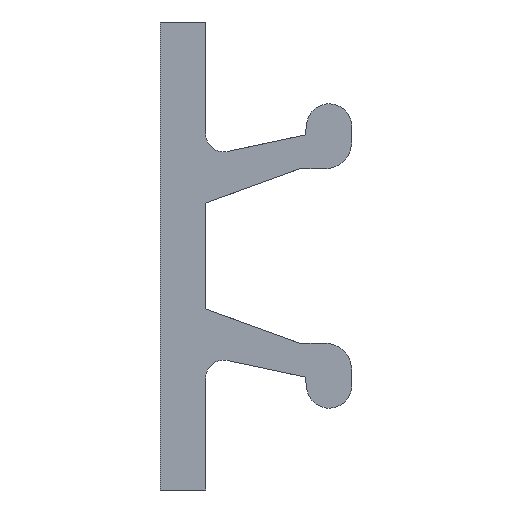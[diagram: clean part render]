
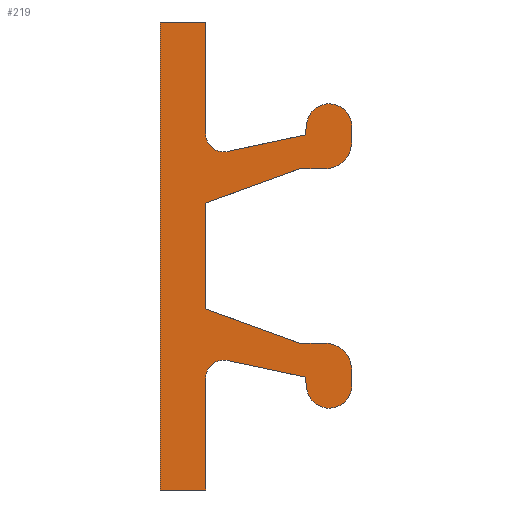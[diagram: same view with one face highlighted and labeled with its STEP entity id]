
A CAD part, front view. The second image highlights one B-rep face of the part: STEP entity #219.
In plain terms, the highlighted planar face has unit normal (0, -1, 0).
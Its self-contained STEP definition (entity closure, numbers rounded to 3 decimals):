
#30=CARTESIAN_POINT('',(5.175,0.,0.));
#31=DIRECTION('',(1.,0.,0.));
#32=DIRECTION('',(0.,-1.,0.));
#33=AXIS2_PLACEMENT_3D('',#30,#32,#31);
#34=PLANE('',#33);
#35=CARTESIAN_POINT('',(3.208,0.,-2.678));
#36=VERTEX_POINT('',#35);
#37=CARTESIAN_POINT('',(3.236,0.,-2.922));
#38=VERTEX_POINT('',#37);
#39=CARTESIAN_POINT('',(3.208,0.,-2.678));
#40=DIRECTION('',(0.114,0.,-0.994));
#41=VECTOR('',#40,0.246);
#42=LINE('',#39,#41);
#43=EDGE_CURVE('',#36,#38,#42,.T.);
#44=ORIENTED_EDGE('E1',*,*,#43,.T.);
#45=CARTESIAN_POINT('',(4.233,0.,-2.865));
#46=VERTEX_POINT('',#45);
#47=CARTESIAN_POINT('',(3.733,0.,-2.865));
#48=DIRECTION('',(-0.994,0.,-0.114));
#49=DIRECTION('',(0.,-1.,0.));
#50=AXIS2_PLACEMENT_3D('',#47,#49,#48);
#51=CIRCLE('',#50,0.5);
#52=EDGE_CURVE('',#38,#46,#51,.T.);
#53=ORIENTED_EDGE('E2',*,*,#52,.T.);
#54=CARTESIAN_POINT('',(4.233,0.,-2.528));
#55=VERTEX_POINT('',#54);
#56=CARTESIAN_POINT('',(4.233,0.,-2.865));
#57=DIRECTION('',(0.,0.,1.));
#58=VECTOR('',#57,0.337);
#59=LINE('',#56,#58);
#60=EDGE_CURVE('',#46,#55,#59,.T.);
#61=ORIENTED_EDGE('E3',*,*,#60,.T.);
#62=CARTESIAN_POINT('',(3.633,0.,-1.928));
#63=VERTEX_POINT('',#62);
#64=CARTESIAN_POINT('',(3.633,0.,-2.528));
#65=DIRECTION('',(1.,0.,0.));
#66=DIRECTION('',(-0.,-1.,0.));
#67=AXIS2_PLACEMENT_3D('',#64,#66,#65);
#68=CIRCLE('',#67,0.6);
#69=EDGE_CURVE('',#55,#63,#68,.T.);
#70=ORIENTED_EDGE('E4',*,*,#69,.T.);
#71=CARTESIAN_POINT('',(3.08,0.,-1.928));
#72=VERTEX_POINT('',#71);
#73=CARTESIAN_POINT('',(3.633,0.,-1.928));
#74=DIRECTION('',(-1.,0.,0.));
#75=VECTOR('',#74,0.553);
#76=LINE('',#73,#75);
#77=EDGE_CURVE('',#63,#72,#76,.T.);
#78=ORIENTED_EDGE('E5',*,*,#77,.T.);
#79=CARTESIAN_POINT('',(1.,0.,-1.17));
#80=VERTEX_POINT('',#79);
#81=CARTESIAN_POINT('',(3.08,0.,-1.928));
#82=DIRECTION('',(-0.94,0.,0.343));
#83=VECTOR('',#82,2.214);
#84=LINE('',#81,#83);
#85=EDGE_CURVE('',#72,#80,#84,.T.);
#86=ORIENTED_EDGE('E6',*,*,#85,.T.);
#87=CARTESIAN_POINT('',(1.,0.,1.17));
#88=VERTEX_POINT('',#87);
#89=CARTESIAN_POINT('',(1.,0.,-1.17));
#90=DIRECTION('',(0.,0.,1.));
#91=VECTOR('',#90,2.34);
#92=LINE('',#89,#91);
#93=EDGE_CURVE('',#80,#88,#92,.T.);
#94=ORIENTED_EDGE('E7',*,*,#93,.T.);
#95=CARTESIAN_POINT('',(3.08,0.,1.928));
#96=VERTEX_POINT('',#95);
#97=CARTESIAN_POINT('',(1.,0.,1.17));
#98=DIRECTION('',(0.94,0.,0.343));
#99=VECTOR('',#98,2.214);
#100=LINE('',#97,#99);
#101=EDGE_CURVE('',#88,#96,#100,.T.);
#102=ORIENTED_EDGE('E8',*,*,#101,.T.);
#103=CARTESIAN_POINT('',(3.633,0.,1.928));
#104=VERTEX_POINT('',#103);
#105=CARTESIAN_POINT('',(3.08,0.,1.928));
#106=DIRECTION('',(1.,0.,0.));
#107=VECTOR('',#106,0.553);
#108=LINE('',#105,#107);
#109=EDGE_CURVE('',#96,#104,#108,.T.);
#110=ORIENTED_EDGE('E9',*,*,#109,.T.);
#111=CARTESIAN_POINT('',(4.233,0.,2.528));
#112=VERTEX_POINT('',#111);
#113=CARTESIAN_POINT('',(3.633,0.,2.528));
#114=DIRECTION('',(0.,0.,-1.));
#115=DIRECTION('',(0.,-1.,0.));
#116=AXIS2_PLACEMENT_3D('',#113,#115,#114);
#117=CIRCLE('',#116,0.6);
#118=EDGE_CURVE('',#104,#112,#117,.T.);
#119=ORIENTED_EDGE('E10',*,*,#118,.T.);
#120=CARTESIAN_POINT('',(4.233,0.,2.865));
#121=VERTEX_POINT('',#120);
#122=CARTESIAN_POINT('',(4.233,0.,2.528));
#123=DIRECTION('',(0.,0.,1.));
#124=VECTOR('',#123,0.337);
#125=LINE('',#122,#124);
#126=EDGE_CURVE('',#112,#121,#125,.T.);
#127=ORIENTED_EDGE('E11',*,*,#126,.T.);
#128=CARTESIAN_POINT('',(3.236,0.,2.922));
#129=VERTEX_POINT('',#128);
#130=CARTESIAN_POINT('',(3.733,0.,2.865));
#131=DIRECTION('',(1.,0.,0.));
#132=DIRECTION('',(-0.,-1.,0.));
#133=AXIS2_PLACEMENT_3D('',#130,#132,#131);
#134=CIRCLE('',#133,0.5);
#135=EDGE_CURVE('',#121,#129,#134,.T.);
#136=ORIENTED_EDGE('E12',*,*,#135,.T.);
#137=CARTESIAN_POINT('',(3.208,0.,2.678));
#138=VERTEX_POINT('',#137);
#139=CARTESIAN_POINT('',(3.236,0.,2.922));
#140=DIRECTION('',(-0.114,0.,-0.994));
#141=VECTOR('',#140,0.246);
#142=LINE('',#139,#141);
#143=EDGE_CURVE('',#129,#138,#142,.T.);
#144=ORIENTED_EDGE('E13',*,*,#143,.T.);
#145=CARTESIAN_POINT('',(1.483,0.,2.312));
#146=VERTEX_POINT('',#145);
#147=CARTESIAN_POINT('',(3.208,0.,2.678));
#148=DIRECTION('',(-0.978,0.,-0.208));
#149=VECTOR('',#148,1.764);
#150=LINE('',#147,#149);
#151=EDGE_CURVE('',#138,#146,#150,.T.);
#152=ORIENTED_EDGE('E14',*,*,#151,.T.);
#153=CARTESIAN_POINT('',(1.,0.,2.703));
#154=VERTEX_POINT('',#153);
#155=CARTESIAN_POINT('',(1.4,0.,2.703));
#156=DIRECTION('',(0.208,0.,-0.978));
#157=DIRECTION('',(0.,1.,-0.));
#158=AXIS2_PLACEMENT_3D('',#155,#157,#156);
#159=CIRCLE('',#158,0.4);
#160=EDGE_CURVE('',#146,#154,#159,.T.);
#161=ORIENTED_EDGE('E15',*,*,#160,.T.);
#162=CARTESIAN_POINT('',(1.,0.,5.175));
#163=VERTEX_POINT('',#162);
#164=CARTESIAN_POINT('',(1.,0.,2.703));
#165=DIRECTION('',(0.,0.,1.));
#166=VECTOR('',#165,2.472);
#167=LINE('',#164,#166);
#168=EDGE_CURVE('',#154,#163,#167,.T.);
#169=ORIENTED_EDGE('E16',*,*,#168,.T.);
#170=CARTESIAN_POINT('',(0.,0.,5.175));
#171=VERTEX_POINT('',#170);
#172=CARTESIAN_POINT('',(1.,0.,5.175));
#173=DIRECTION('',(-1.,0.,0.));
#174=VECTOR('',#173,1.);
#175=LINE('',#172,#174);
#176=EDGE_CURVE('',#163,#171,#175,.T.);
#177=ORIENTED_EDGE('E17',*,*,#176,.T.);
#178=CARTESIAN_POINT('',(0.,0.,-5.175));
#179=VERTEX_POINT('',#178);
#180=CARTESIAN_POINT('',(0.,0.,5.175));
#181=DIRECTION('',(0.,0.,-1.));
#182=VECTOR('',#181,10.35);
#183=LINE('',#180,#182);
#184=EDGE_CURVE('',#171,#179,#183,.T.);
#185=ORIENTED_EDGE('E18',*,*,#184,.T.);
#186=CARTESIAN_POINT('',(1.,0.,-5.175));
#187=VERTEX_POINT('',#186);
#188=CARTESIAN_POINT('',(0.,0.,-5.175));
#189=DIRECTION('',(1.,0.,0.));
#190=VECTOR('',#189,1.);
#191=LINE('',#188,#190);
#192=EDGE_CURVE('',#179,#187,#191,.T.);
#193=ORIENTED_EDGE('E19',*,*,#192,.T.);
#194=CARTESIAN_POINT('',(1.,0.,-2.703));
#195=VERTEX_POINT('',#194);
#196=CARTESIAN_POINT('',(1.,0.,-5.175));
#197=DIRECTION('',(0.,0.,1.));
#198=VECTOR('',#197,2.472);
#199=LINE('',#196,#198);
#200=EDGE_CURVE('',#187,#195,#199,.T.);
#201=ORIENTED_EDGE('E20',*,*,#200,.T.);
#202=CARTESIAN_POINT('',(1.483,0.,-2.312));
#203=VERTEX_POINT('',#202);
#204=CARTESIAN_POINT('',(1.4,0.,-2.703));
#205=DIRECTION('',(-1.,0.,0.));
#206=DIRECTION('',(-0.,1.,0.));
#207=AXIS2_PLACEMENT_3D('',#204,#206,#205);
#208=CIRCLE('',#207,0.4);
#209=EDGE_CURVE('',#195,#203,#208,.T.);
#210=ORIENTED_EDGE('E21',*,*,#209,.T.);
#211=CARTESIAN_POINT('',(1.483,0.,-2.312));
#212=DIRECTION('',(0.978,0.,-0.208));
#213=VECTOR('',#212,1.764);
#214=LINE('',#211,#213);
#215=EDGE_CURVE('',#203,#36,#214,.T.);
#216=ORIENTED_EDGE('E22',*,*,#215,.T.);
#217=EDGE_LOOP('',(#44,#53,#61,#70,#78,#86,#94,#102,#110,#119,#127,#136,#144,#152,#161,#169,#177,#185,#193,#201,#210,#216));
#218=FACE_OUTER_BOUND('',#217,.T.);
#219=ADVANCED_FACE('F1',(#218),#34,.T.);
